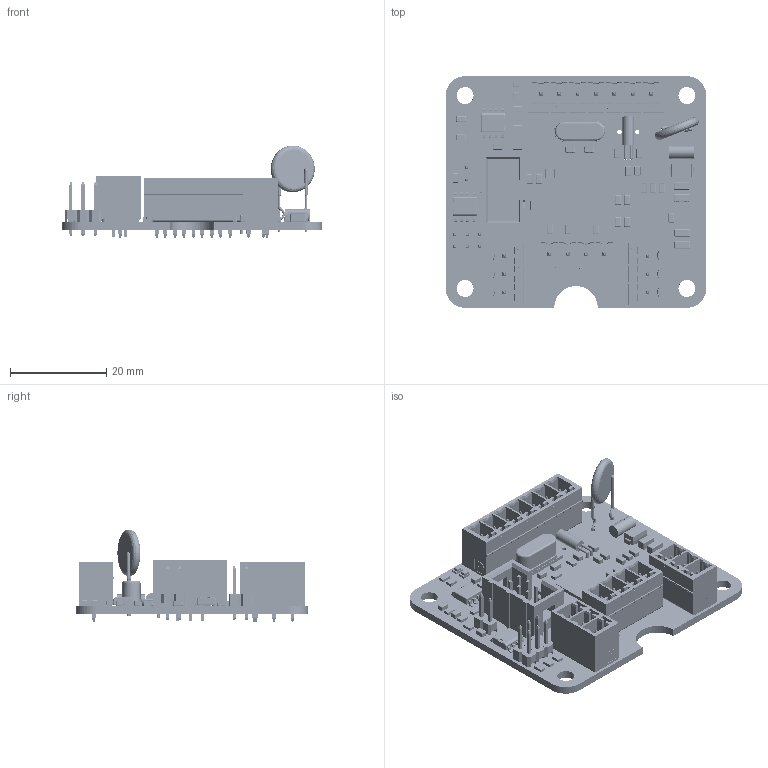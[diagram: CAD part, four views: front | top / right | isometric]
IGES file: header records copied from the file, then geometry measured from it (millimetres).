
Global section: file name: C:\Altium-Client\Agrigel\3-General\UFO2-FM\UFO2-FM.igs; native system: Rhinoceros ( Mar  9 2011 ); preprocessor: Trout Lake IGES 012 Mar  9 2011; date: 140930.140725; units: millimetre
Bounding box: 54.02 x 48.02 x 19.24 mm (x, y, z)
Surface area: 15235.4 mm2 (no closed solid volume)
Topology: 0 solids, 0 shells, 8977 faces, 81965 edges, 81609 vertices
Faces by surface type: bspline 8977
